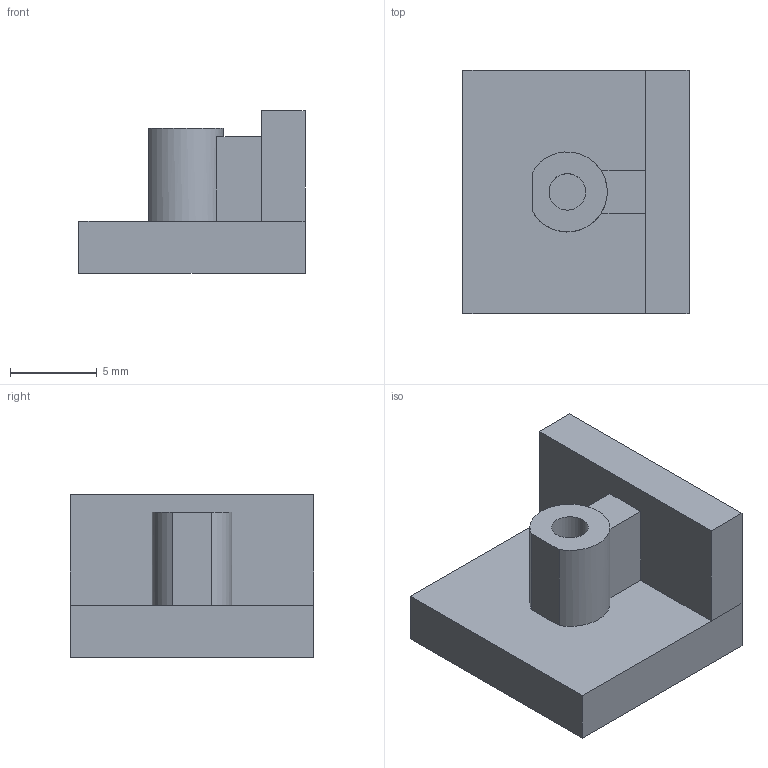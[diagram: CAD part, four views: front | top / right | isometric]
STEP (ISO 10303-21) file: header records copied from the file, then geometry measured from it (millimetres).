
FILE_DESCRIPTION(('Open CASCADE Model'),'2;1');
FILE_NAME('Open CASCADE Shape Model','2026-09-15T13:32:55',('Author'),( 'Open CASCADE'),'Open CASCADE STEP processor 7.7','Open CASCADE 7.7' ,'Unknown');
FILE_SCHEMA(('AUTOMOTIVE_DESIGN { 1 0 10303 214 1 1 1 1 }'));
Length unit declared in the file: millimetre
Products named in the file (1): QP01_CLOSURE_PILOT_D2.1
Bounding box: 13 x 14 x 9.35 mm (x, y, z)
Volume: 862 mm3; surface area: 851.9 mm2
Topology: 1 solids, 1 shells, 20 faces, 47 edges, 30 vertices
Faces by surface type: plane 17, cylinder 3
Full cylindrical faces by diameter (mm): 2.1 x1
Entity records: 1171 total; most frequent: CARTESIAN_POINT 209, DIRECTION 174, LINE 108, VECTOR 108, ORIENTED_EDGE 94, PCURVE 94, DEFINITIONAL_REPRESENTATION 94, EDGE_CURVE 47
